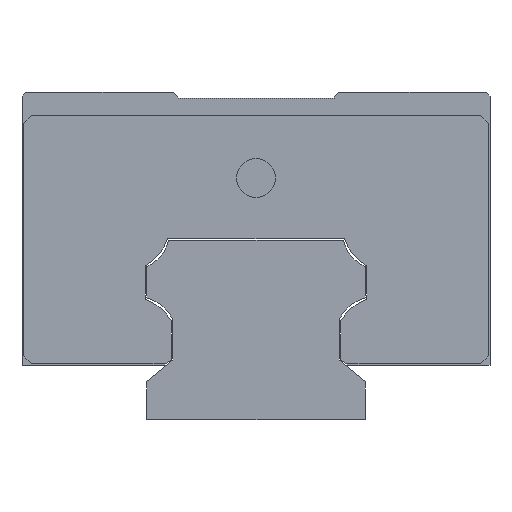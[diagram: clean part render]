
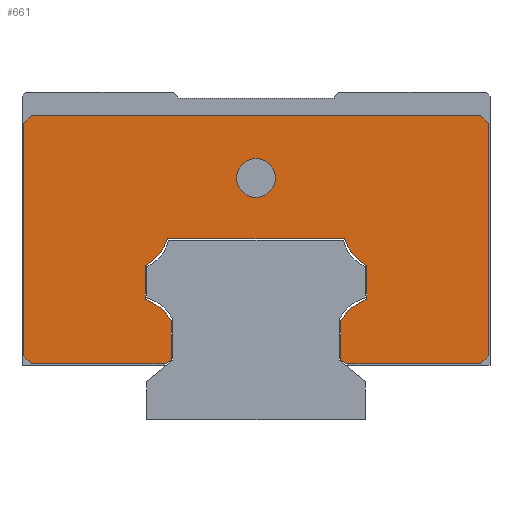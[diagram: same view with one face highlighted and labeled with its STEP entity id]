
A CAD part, left-side view. The second image highlights one B-rep face of the part: STEP entity #661.
In plain terms, the highlighted planar face has unit normal (-1, 0, 0).
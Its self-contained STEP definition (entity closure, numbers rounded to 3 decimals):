
#520=FACE_BOUND('',#935,.T.);
#521=FACE_BOUND('',#936,.T.);
#661=ADVANCED_FACE('',(#520,#521),#773,.F.);
#773=PLANE('',#2533);
#935=EDGE_LOOP('',(#1254));
#936=EDGE_LOOP('',(#1255,#1256,#1257,#1258,#1259,#1260,#1261,#1262,#1263,
#1264,#1265,#1266,#1267,#1268,#1269,#1270,#1271,#1272,#1273,#1274));
#1084=CIRCLE('',#2517,6.95);
#1085=CIRCLE('',#2520,6.95);
#1086=CIRCLE('',#2523,6.95);
#1087=CIRCLE('',#2526,6.95);
#1088=CIRCLE('',#2532,2.5);
#1254=ORIENTED_EDGE('',*,*,#1951,.F.);
#1255=ORIENTED_EDGE('',*,*,#1949,.F.);
#1256=ORIENTED_EDGE('',*,*,#1952,.T.);
#1257=ORIENTED_EDGE('',*,*,#1944,.F.);
#1258=ORIENTED_EDGE('',*,*,#1943,.F.);
#1259=ORIENTED_EDGE('',*,*,#1936,.F.);
#1260=ORIENTED_EDGE('',*,*,#1930,.F.);
#1261=ORIENTED_EDGE('',*,*,#1929,.F.);
#1262=ORIENTED_EDGE('',*,*,#1921,.F.);
#1263=ORIENTED_EDGE('',*,*,#1920,.F.);
#1264=ORIENTED_EDGE('',*,*,#1912,.F.);
#1265=ORIENTED_EDGE('',*,*,#1911,.F.);
#1266=ORIENTED_EDGE('',*,*,#1903,.F.);
#1267=ORIENTED_EDGE('',*,*,#1901,.F.);
#1268=ORIENTED_EDGE('',*,*,#1896,.F.);
#1269=ORIENTED_EDGE('',*,*,#1888,.F.);
#1270=ORIENTED_EDGE('',*,*,#1953,.T.);
#1271=ORIENTED_EDGE('',*,*,#1884,.F.);
#1272=ORIENTED_EDGE('',*,*,#1954,.T.);
#1273=ORIENTED_EDGE('',*,*,#1880,.F.);
#1274=ORIENTED_EDGE('',*,*,#1955,.T.);
#1696=VERTEX_POINT('',#3299);
#1697=VERTEX_POINT('',#3301);
#1700=VERTEX_POINT('',#3308);
#1701=VERTEX_POINT('',#3310);
#1704=VERTEX_POINT('',#3317);
#1705=VERTEX_POINT('',#3319);
#1706=VERTEX_POINT('',#3323);
#1712=VERTEX_POINT('',#3337);
#1717=VERTEX_POINT('',#3349);
#1718=VERTEX_POINT('',#3353);
#1723=VERTEX_POINT('',#3366);
#1724=VERTEX_POINT('',#3370);
#1729=VERTEX_POINT('',#3383);
#1730=VERTEX_POINT('',#3387);
#1735=VERTEX_POINT('',#3400);
#1736=VERTEX_POINT('',#3404);
#1740=VERTEX_POINT('',#3414);
#1746=VERTEX_POINT('',#3428);
#1750=VERTEX_POINT('',#3437);
#1751=VERTEX_POINT('',#3439);
#1752=VERTEX_POINT('',#3443);
#1880=EDGE_CURVE('',#1696,#1697,#2141,.T.);
#1884=EDGE_CURVE('',#1700,#1701,#2145,.T.);
#1888=EDGE_CURVE('',#1704,#1705,#2149,.T.);
#1896=EDGE_CURVE('',#1705,#1706,#2157,.T.);
#1901=EDGE_CURVE('',#1706,#1712,#2162,.T.);
#1903=EDGE_CURVE('',#1712,#1717,#1084,.T.);
#1911=EDGE_CURVE('',#1717,#1718,#2170,.T.);
#1912=EDGE_CURVE('',#1718,#1723,#1085,.T.);
#1920=EDGE_CURVE('',#1723,#1724,#2178,.T.);
#1921=EDGE_CURVE('',#1724,#1729,#1086,.T.);
#1929=EDGE_CURVE('',#1729,#1730,#2186,.T.);
#1930=EDGE_CURVE('',#1730,#1735,#1087,.T.);
#1936=EDGE_CURVE('',#1735,#1736,#2192,.T.);
#1943=EDGE_CURVE('',#1736,#1740,#2199,.T.);
#1944=EDGE_CURVE('',#1740,#1746,#2200,.T.);
#1949=EDGE_CURVE('',#1750,#1751,#2205,.T.);
#1951=EDGE_CURVE('',#1752,#1752,#1088,.T.);
#1952=EDGE_CURVE('',#1750,#1746,#2207,.T.);
#1953=EDGE_CURVE('',#1704,#1701,#2208,.T.);
#1954=EDGE_CURVE('',#1700,#1697,#2209,.T.);
#1955=EDGE_CURVE('',#1696,#1751,#2210,.T.);
#2141=LINE('',#3300,#2325);
#2145=LINE('',#3309,#2329);
#2149=LINE('',#3318,#2333);
#2157=LINE('',#3334,#2341);
#2162=LINE('',#3344,#2346);
#2170=LINE('',#3363,#2354);
#2178=LINE('',#3380,#2362);
#2186=LINE('',#3397,#2370);
#2192=LINE('',#3411,#2376);
#2199=LINE('',#3425,#2383);
#2200=LINE('',#3427,#2384);
#2205=LINE('',#3438,#2389);
#2207=LINE('',#3444,#2391);
#2208=LINE('',#3445,#2392);
#2209=LINE('',#3446,#2393);
#2210=LINE('',#3447,#2394);
#2325=VECTOR('',#2720,1.);
#2329=VECTOR('',#2726,1.);
#2333=VECTOR('',#2732,1.);
#2341=VECTOR('',#2742,1.);
#2346=VECTOR('',#2749,1.);
#2354=VECTOR('',#2765,1.);
#2362=VECTOR('',#2779,1.);
#2370=VECTOR('',#2793,1.);
#2376=VECTOR('',#2805,1.);
#2383=VECTOR('',#2814,1.);
#2384=VECTOR('',#2817,1.);
#2389=VECTOR('',#2824,1.);
#2391=VECTOR('',#2830,1.);
#2392=VECTOR('',#2831,1.);
#2393=VECTOR('',#2832,1.);
#2394=VECTOR('',#2833,1.);
#2517=AXIS2_PLACEMENT_3D('',#3348,#2754,#2755);
#2520=AXIS2_PLACEMENT_3D('',#3365,#2768,#2769);
#2523=AXIS2_PLACEMENT_3D('',#3382,#2782,#2783);
#2526=AXIS2_PLACEMENT_3D('',#3399,#2796,#2797);
#2532=AXIS2_PLACEMENT_3D('',#3442,#2828,#2829);
#2533=AXIS2_PLACEMENT_3D('',#3448,#2834,#2835);
#2720=DIRECTION('',(0.,-1.,0.));
#2726=DIRECTION('',(0.,0.,-1.));
#2732=DIRECTION('',(0.,1.,0.));
#2742=DIRECTION('',(0.,0.766,0.643));
#2749=DIRECTION('',(0.,0.,1.));
#2754=DIRECTION('',(1.,0.,0.));
#2755=DIRECTION('',(0.,1.,0.));
#2765=DIRECTION('',(0.,0.,1.));
#2768=DIRECTION('',(1.,0.,0.));
#2769=DIRECTION('',(0.,1.,0.));
#2779=DIRECTION('',(0.,1.,0.));
#2782=DIRECTION('',(1.,0.,0.));
#2783=DIRECTION('',(0.,-1.,0.));
#2793=DIRECTION('',(0.,0.,-1.));
#2796=DIRECTION('',(1.,0.,0.));
#2797=DIRECTION('',(0.,-1.,0.));
#2805=DIRECTION('',(0.,0.,-1.));
#2814=DIRECTION('',(0.,0.766,-0.643));
#2817=DIRECTION('',(0.,1.,0.));
#2824=DIRECTION('',(0.,0.,1.));
#2828=DIRECTION('',(-1.,0.,0.));
#2829=DIRECTION('',(0.,1.,0.));
#2830=DIRECTION('',(0.,-0.707,-0.707));
#2831=DIRECTION('',(0.,-0.707,0.707));
#2832=DIRECTION('',(0.,0.707,0.707));
#2833=DIRECTION('',(0.,0.707,-0.707));
#2834=DIRECTION('',(1.,0.,0.));
#2835=DIRECTION('',(0.,0.,-1.));
#3299=CARTESIAN_POINT('',(-33.7,28.8,39.));
#3300=CARTESIAN_POINT('',(-33.7,29.8,39.));
#3301=CARTESIAN_POINT('',(-33.7,-28.8,39.));
#3308=CARTESIAN_POINT('',(-33.7,-29.8,38.));
#3309=CARTESIAN_POINT('',(-33.7,-29.8,39.));
#3310=CARTESIAN_POINT('',(-33.7,-29.8,8.2));
#3317=CARTESIAN_POINT('',(-33.7,-28.8,7.2));
#3318=CARTESIAN_POINT('',(-33.7,-29.8,7.2));
#3319=CARTESIAN_POINT('',(-33.7,-11.53,7.2));
#3323=CARTESIAN_POINT('',(-33.7,-10.863,7.76));
#3334=CARTESIAN_POINT('',(-33.7,-11.53,7.2));
#3337=CARTESIAN_POINT('',(-33.7,-10.863,12.685));
#3344=CARTESIAN_POINT('',(-33.7,-10.863,7.76));
#3348=CARTESIAN_POINT('',(-33.7,-16.774,9.029));
#3349=CARTESIAN_POINT('',(-33.7,-14.2,15.485));
#3353=CARTESIAN_POINT('',(-33.7,-14.2,19.736));
#3363=CARTESIAN_POINT('',(-33.7,-14.2,15.485));
#3365=CARTESIAN_POINT('',(-33.7,-17.781,25.692));
#3366=CARTESIAN_POINT('',(-33.7,-11.293,23.2));
#3370=CARTESIAN_POINT('',(-33.7,11.293,23.2));
#3380=CARTESIAN_POINT('',(-33.7,-11.293,23.2));
#3382=CARTESIAN_POINT('',(-33.7,17.781,25.692));
#3383=CARTESIAN_POINT('',(-33.7,14.2,19.736));
#3387=CARTESIAN_POINT('',(-33.7,14.2,15.485));
#3397=CARTESIAN_POINT('',(-33.7,14.2,19.736));
#3399=CARTESIAN_POINT('',(-33.7,16.774,9.029));
#3400=CARTESIAN_POINT('',(-33.7,10.863,12.685));
#3404=CARTESIAN_POINT('',(-33.7,10.863,7.76));
#3411=CARTESIAN_POINT('',(-33.7,10.863,12.685));
#3414=CARTESIAN_POINT('',(-33.7,11.53,7.2));
#3425=CARTESIAN_POINT('',(-33.7,10.863,7.76));
#3427=CARTESIAN_POINT('',(-33.7,11.53,7.2));
#3428=CARTESIAN_POINT('',(-33.7,28.8,7.2));
#3437=CARTESIAN_POINT('',(-33.7,29.8,8.2));
#3438=CARTESIAN_POINT('',(-33.7,29.8,7.2));
#3439=CARTESIAN_POINT('',(-33.7,29.8,38.));
#3442=CARTESIAN_POINT('',(-33.7,0.,31.));
#3443=CARTESIAN_POINT('',(-33.7,2.5,31.));
#3444=CARTESIAN_POINT('',(-33.7,28.8,7.2));
#3445=CARTESIAN_POINT('',(-33.7,-29.8,8.2));
#3446=CARTESIAN_POINT('',(-33.7,-28.8,39.));
#3447=CARTESIAN_POINT('',(-33.7,29.8,38.));
#3448=CARTESIAN_POINT('',(-33.7,-16.774,9.029));
